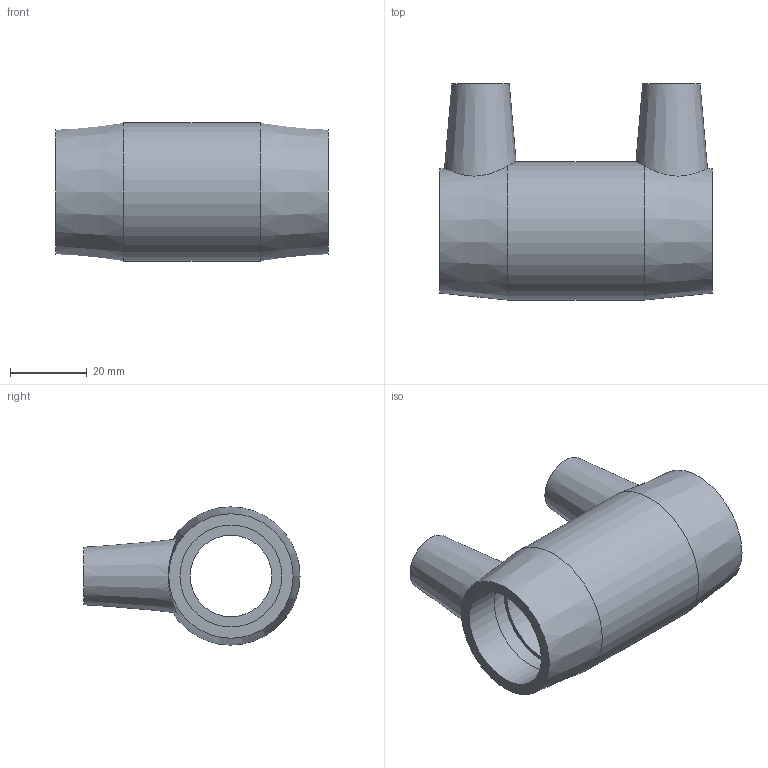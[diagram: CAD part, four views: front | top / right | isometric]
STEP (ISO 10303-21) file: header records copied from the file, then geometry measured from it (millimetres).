
FILE_DESCRIPTION(/* description */ ('PLASSON IPS COUPLER 3/4'''''),/* implementation_level */ '2;1');
FILE_NAME(/* name */ 'C:\Dropbox\KIMPROJECTS-Inventor 2019\99-16-3568-Processing Inch\ASTM ElectroFusion 2021\5901B\5901B004007.ipt.stp',/* time_stamp */ '2021-08-30T09:48:51+03:00',/* author */ ('KIM'),/* organization */ (''),/* preprocessor_version */ 'ST-DEVELOPER v17.2',/* originating_system */ 'Autodesk Inventor 2019',/* authorisation */ '');
FILE_SCHEMA (('AUTOMOTIVE_DESIGN { 1 0 10303 214 3 1 1 }'));
Length unit declared in the file: inch
Products named in the file (1): 5901B004007
Bounding box: 71.12 x 56.39 x 36.07 mm (x, y, z)
Volume: 37516.9 mm3; surface area: 18340.2 mm2
Topology: 1 solids, 1 shells, 30 faces, 68 edges, 48 vertices
Faces by surface type: plane 12, cylinder 10, cone 8
Full cylindrical faces by diameter (mm): 4 x2, 10 x2, 21.28 x1, 26.6 x4, 36.068 x1
Entity records: 999 total; most frequent: CARTESIAN_POINT 235, DIRECTION 166, ORIENTED_EDGE 136, AXIS2_PLACEMENT_3D 75, EDGE_CURVE 68, VERTEX_POINT 48, CIRCLE 44, EDGE_LOOP 40
